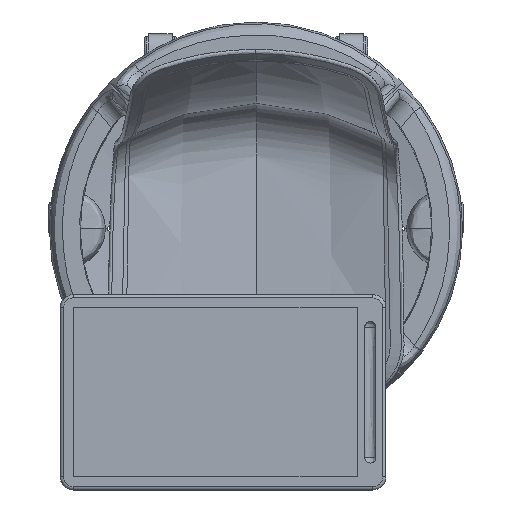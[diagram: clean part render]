
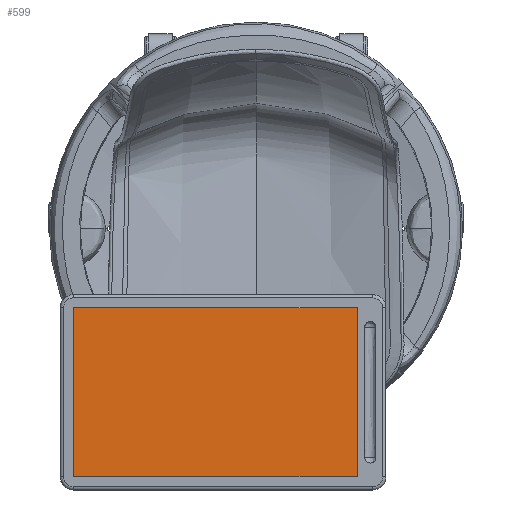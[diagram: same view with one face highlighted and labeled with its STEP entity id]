
A CAD part, top view. The second image highlights one B-rep face of the part: STEP entity #599.
In plain terms, the highlighted planar face has unit normal (0, 0, 1).
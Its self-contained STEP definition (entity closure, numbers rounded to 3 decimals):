
#599=ADVANCED_FACE('',(#1403),#13880,.T.);
#1403=FACE_OUTER_BOUND('',#2209,.T.);
#2209=EDGE_LOOP('',(#3194,#3195,#3196,#3197));
#3194=ORIENTED_EDGE('',*,*,#7125,.F.);
#3195=ORIENTED_EDGE('',*,*,#7126,.F.);
#3196=ORIENTED_EDGE('',*,*,#7127,.F.);
#3197=ORIENTED_EDGE('',*,*,#7124,.F.);
#7124=EDGE_CURVE('',#11833,#11836,#10038,.T.);
#7125=EDGE_CURVE('',#11834,#11833,#10039,.T.);
#7126=EDGE_CURVE('',#11835,#11834,#10040,.T.);
#7127=EDGE_CURVE('',#11836,#11835,#10041,.T.);
#10038=B_SPLINE_CURVE_WITH_KNOTS('',1,(#15300,#15301),.UNSPECIFIED.,.F.,
 .F.,(2,2),(0.,460.),.UNSPECIFIED.);
#10039=B_SPLINE_CURVE_WITH_KNOTS('',1,(#15302,#15303),.UNSPECIFIED.,.F.,
 .F.,(2,2),(1180.,1440.),.UNSPECIFIED.);
#10040=B_SPLINE_CURVE_WITH_KNOTS('',1,(#15304,#15305),.UNSPECIFIED.,.F.,
 .F.,(2,2),(720.,1180.),.UNSPECIFIED.);
#10041=B_SPLINE_CURVE_WITH_KNOTS('',1,(#15306,#15307),.UNSPECIFIED.,.F.,
 .F.,(2,2),(460.,720.),.UNSPECIFIED.);
#11833=VERTEX_POINT('',#15296);
#11834=VERTEX_POINT('',#15297);
#11835=VERTEX_POINT('',#15298);
#11836=VERTEX_POINT('',#15299);
#13880=PLANE('',#14239);
#14239=AXIS2_PLACEMENT_3D('',#15295,#14583,$);
#14583=DIRECTION('',(0.,0.,1.));
#15295=CARTESIAN_POINT('',(-300.611,-102.332,701.));
#15296=CARTESIAN_POINT('',(155.389,-382.332,701.));
#15297=CARTESIAN_POINT('',(155.389,-122.332,701.));
#15298=CARTESIAN_POINT('',(-280.611,-122.332,701.));
#15299=CARTESIAN_POINT('',(-280.611,-382.332,701.));
#15300=CARTESIAN_POINT('',(155.389,-382.332,701.));
#15301=CARTESIAN_POINT('',(-280.611,-382.332,701.));
#15302=CARTESIAN_POINT('',(155.389,-122.332,701.));
#15303=CARTESIAN_POINT('',(155.389,-382.332,701.));
#15304=CARTESIAN_POINT('',(-280.611,-122.332,701.));
#15305=CARTESIAN_POINT('',(155.389,-122.332,701.));
#15306=CARTESIAN_POINT('',(-280.611,-382.332,701.));
#15307=CARTESIAN_POINT('',(-280.611,-122.332,701.));
